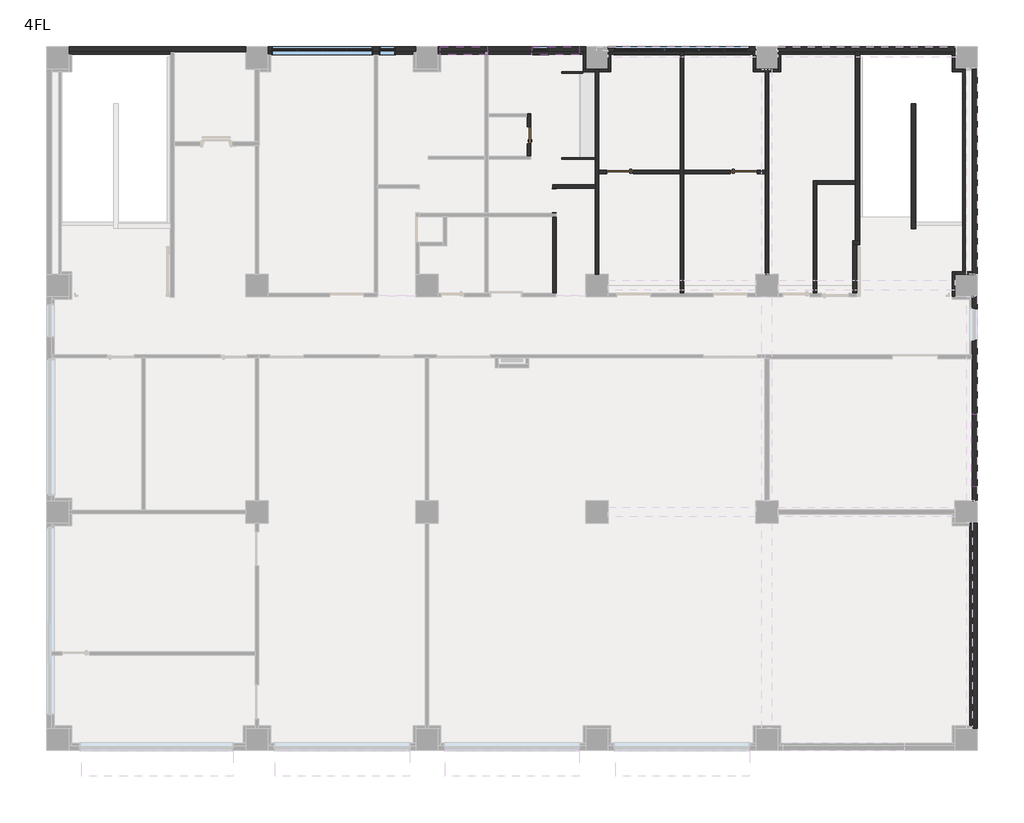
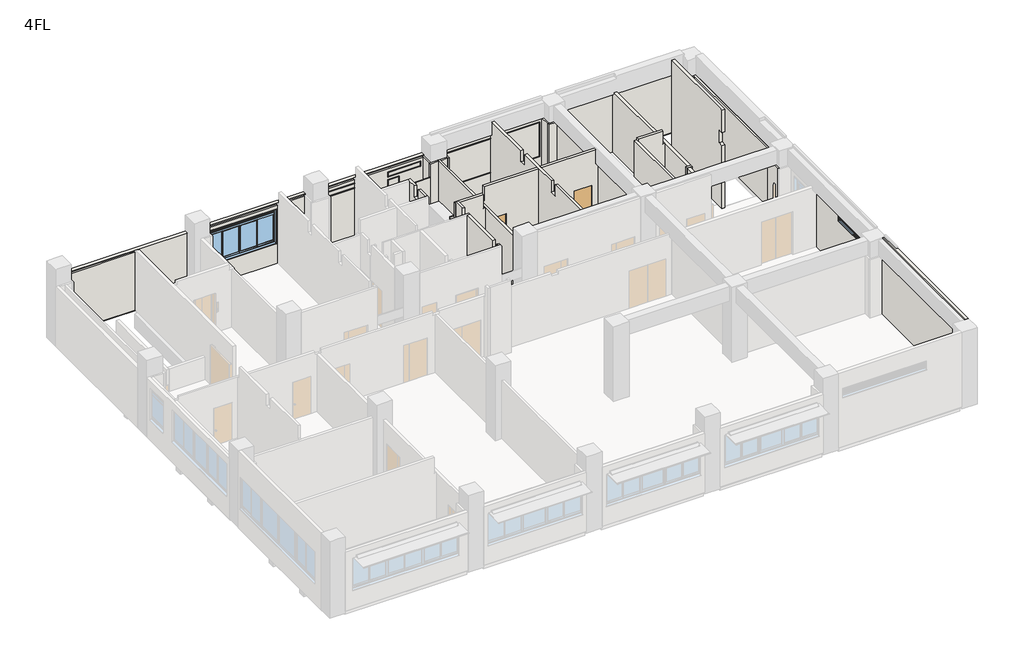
# One storey, part 3 of 5: 35 walls, 7 windows, 4 doors.
"""IFC4 building model written with IfcOpenShell, lengths in millimetres."""

from ifc_helpers import new_model, si_unit, frame, origin, place, context, project, spatial, polyline, outline, extrude, faceted_brep, transform, mapped, element, save
from components import door_0812e9ce, door_7e7a0efd, door_cb1f44da, door_14d6dc4f, ag_06_22dadb70, ag_07_7ad97628, aw4_4580bdda, aw5_68b6661f, aw7_750fac0c, aw9_1008a672

model = new_model("IFC4")

# Units and contexts
model_context = context("Model", 3, world=origin())
ifc_project = project(units=[si_unit("LENGTHUNIT", "METRE", prefix="MILLI")], contexts=[model_context])

# Site, building, storey
site = spatial("IfcSite", under=ifc_project)
building = spatial("IfcBuilding", under=site)
storey = spatial("IfcBuildingStorey", under=building, Name="4FL", Elevation=12300.0)

# Doors
placement = place(None, origin())
door_shape = door_0812e9ce(model_context)
element("IfcDoor", 1, ObjectType="営_片開き扉 : LD3 950*2000", at=placement, inside=storey, context=model_context, shape_type="MappedRepresentation", body=[
    mapped(door_shape, transform((19815.0, 20000.0, 12300.0), x_axis=(-1.0, 0.0, 0.0), y_axis=(0.0, -1.0, 0.0), z_axis=(0.0, 0.0, 1.0))),
])
door_2_shape = door_7e7a0efd(model_context)
element("IfcDoor", 2, ObjectType="営_片開き扉 : LD3 950*2000", at=placement, inside=storey, context=model_context, shape_type="MappedRepresentation", body=[
    mapped(door_2_shape, transform((24185.0, 20000.0, 12300.0), x_axis=(1.0, 0.0, 0.0), y_axis=(0.0, 1.0, 0.0), z_axis=(0.0, 0.0, 1.0))),
])
door_3_shape = door_cb1f44da(model_context)
element("IfcDoor", 3, ObjectType="営_片開き扉 : SD7 600*2000", at=placement, inside=storey, context=model_context, shape_type="MappedRepresentation", body=[
    mapped(door_3_shape, transform((16600.0, 21310.0, 12300.0), x_axis=(0.0, 1.0, 0.0), y_axis=(-1.0, 0.0, 0.0), z_axis=(0.0, 0.0, 1.0))),
])
door_4_shape = door_14d6dc4f(model_context)
element("IfcDoor", 4, ObjectType="営_三方枠 : S1_850*2000", at=placement, inside=storey, context=model_context, shape_type="MappedRepresentation", body=[
    mapped(door_4_shape, transform((17500.0, 18990.25, 12300.0), x_axis=(0.0, 1.0, 0.0), y_axis=(-1.0, 0.0, 0.0), z_axis=(0.0, 0.0, 1.0))),
])

# Walls
element("IfcWall", 5, ObjectType="(外壁)RC150+20", at=placement, inside=storey, context=model_context, shape_type="Brep", body=[
    faceted_brep([(7395.0, 24250.0, 12200.0), (12605.0, 24250.0, 12200.0), (12605.0, 24250.0, 15450.0), (7395.0, 24250.0, 15450.0), (7395.0, 24250.0, 15400.0), (12515.0, 24250.0, 15400.0), (12515.0, 24250.0, 12300.0), (7395.0, 24250.0, 12300.0), (12605.0, 24420.0, 12200.0), (7395.0, 24420.0, 12200.0), (7395.0, 24420.0, 15450.0), (12605.0, 24420.0, 15450.0), (11340.0, 24420.0, 13275.0), (11860.0, 24420.0, 13275.0), (11860.0, 24420.0, 15195.0), (11340.0, 24420.0, 15195.0), (7540.0, 24420.0, 13275.0), (11060.0, 24420.0, 13275.0), (11060.0, 24420.0, 15195.0), (7540.0, 24420.0, 15195.0), (11310.0, 24290.0, 13365.0), (11310.0, 24290.0, 15220.0), (11310.0, 24250.6075581, 15220.0), (11310.0, 24250.6075581, 13365.0), (11890.0, 24290.0, 15220.0), (11890.0, 24290.0, 13365.0), (11890.0, 24250.6075581, 13365.0), (11890.0, 24250.6075581, 15220.0), (11880.0, 24290.0, 13365.0), (11320.0, 24290.0, 13365.0), (11320.0, 24290.0, 15215.0), (11880.0, 24290.0, 15215.0), (11320.0, 24290.0, 13295.0), (11320.0, 24360.0, 13284.2307692), (11320.0, 24360.0, 15215.0), (11880.0, 24360.0, 15215.0), (11880.0, 24360.0, 13284.2307692), (11880.0, 24290.0, 13295.0), (11860.0, 24360.0, 13284.2307692), (11340.0, 24360.0, 13284.2307692), (11340.0, 24360.0, 15195.0), (11860.0, 24360.0, 15195.0), (11090.0, 24290.0, 15220.0), (11090.0, 24290.0, 13365.0), (11090.0, 24250.6075581, 13365.0), (11090.0, 24250.6075581, 15220.0), (7510.0, 24290.0, 13365.0), (7510.0, 24290.0, 15220.0), (7510.0, 24250.6075581, 15220.0), (7510.0, 24250.6075581, 13365.0), (11080.0, 24290.0, 13365.0), (7520.0, 24290.0, 13365.0), (7520.0, 24290.0, 15215.0), (11080.0, 24290.0, 15215.0), (11080.0, 24360.0, 15215.0), (11080.0, 24360.0, 13284.2307692), (11080.0, 24290.0, 13295.0), (7520.0, 24290.0, 13295.0), (7520.0, 24360.0, 13284.2307692), (7520.0, 24360.0, 15215.0), (11060.0, 24360.0, 13284.2307692), (7540.0, 24360.0, 13284.2307692), (7540.0, 24360.0, 15195.0), (11060.0, 24360.0, 15195.0), (7395.0, 24250.6075581, 12300.0), (7395.0, 24250.6075581, 15400.0), (12515.0, 24250.6075581, 12300.0), (12515.0, 24250.6075581, 15400.0)], [[[0, 1, 2, 3, 4, 5, 6, 7]], [[8, 9, 10, 11], [12, 13, 14, 15], [16, 17, 18, 19]], [[0, 9, 8, 1]], [[20, 21, 22, 23]], [[24, 25, 26, 27]], [[25, 28, 29, 20, 23, 26]], [[21, 20, 29, 30, 31, 28, 25, 24]], [[21, 24, 27, 22]], [[30, 29, 32, 33, 34]], [[28, 31, 35, 36, 37]], [[33, 32, 37, 36, 38, 13, 12, 39]], [[34, 33, 39, 40, 41, 38, 36, 35]], [[31, 30, 34, 35]], [[29, 28, 37, 32]], [[39, 12, 15, 40]], [[13, 38, 41, 14]], [[41, 40, 15, 14]], [[42, 43, 44, 45]], [[46, 47, 48, 49]], [[43, 50, 51, 46, 49, 44]], [[43, 42, 47, 46, 51, 52, 53, 50]], [[47, 42, 45, 48]], [[50, 53, 54, 55, 56]], [[52, 51, 57, 58, 59]], [[56, 55, 60, 17, 16, 61, 58, 57]], [[55, 54, 59, 58, 61, 62, 63, 60]], [[53, 52, 59, 54]], [[51, 50, 56, 57]], [[17, 60, 63, 18]], [[61, 16, 19, 62]], [[63, 62, 19, 18]], [[9, 0, 7, 64, 65, 4, 3, 10]], [[1, 8, 11, 2]], [[3, 2, 11, 10]], [[64, 66, 67, 65], [23, 22, 27, 26], [45, 44, 49, 48]], [[66, 64, 7, 6]], [[65, 67, 5, 4]], [[67, 66, 6, 5]]]),
    faceted_brep([(13395.0, 24250.0, 12200.0), (18605.0, 24250.0, 12200.0), (18605.0, 24250.0, 15450.0), (13395.0, 24250.0, 15450.0), (16710.0, 24250.0, 13365.0), (16710.0, 24250.0, 14820.0), (17290.0, 24250.0, 14820.0), (17290.0, 24250.0, 13365.0), (18380.0, 24250.0, 15235.0), (18380.0, 24250.0, 14965.0), (16700.0, 24250.0, 14965.0), (16700.0, 24250.0, 15235.0), (15140.0, 24250.0, 15235.0), (15140.0, 24250.0, 14965.0), (13460.0, 24250.0, 14965.0), (13460.0, 24250.0, 15235.0), (18605.0, 24420.0, 12200.0), (13395.0, 24420.0, 12200.0), (13395.0, 24420.0, 15450.0), (18605.0, 24420.0, 15450.0), (16740.0, 24420.0, 13275.0), (17260.0, 24420.0, 13275.0), (17260.0, 24420.0, 14795.0), (16740.0, 24420.0, 14795.0), (16730.0, 24420.0, 14875.0), (18350.0, 24420.0, 14875.0), (18350.0, 24420.0, 15210.0), (16730.0, 24420.0, 15210.0), (13490.0, 24420.0, 14875.0), (15110.0, 24420.0, 14875.0), (15110.0, 24420.0, 15210.0), (13490.0, 24420.0, 15210.0), (16710.0, 24290.0, 14820.0), (16710.0, 24290.0, 13365.0), (17290.0, 24290.0, 13365.0), (17290.0, 24290.0, 14820.0), (17280.0, 24290.0, 13365.0), (16720.0, 24290.0, 13365.0), (16720.0, 24290.0, 14815.0), (17280.0, 24290.0, 14815.0), (16720.0, 24290.0, 13295.0), (16720.0, 24360.0, 13284.2307692), (16720.0, 24360.0, 14815.0), (17280.0, 24360.0, 14815.0), (17280.0, 24360.0, 13284.2307692), (17280.0, 24290.0, 13295.0), (17260.0, 24360.0, 13284.2307692), (16740.0, 24360.0, 13284.2307692), (16740.0, 24360.0, 14795.0), (17260.0, 24360.0, 14795.0), (18380.0, 24290.0, 15235.0), (18380.0, 24290.0, 14965.0), (16700.0, 24290.0, 14965.0), (16700.0, 24290.0, 15235.0), (18370.0, 24290.0, 14965.0), (16710.0, 24290.0, 14965.0), (16710.0, 24290.0, 15230.0), (18370.0, 24290.0, 15230.0), (18370.0, 24360.0, 15230.0), (18370.0, 24360.0, 14884.2307692), (18370.0, 24290.0, 14895.0), (16710.0, 24290.0, 14895.0), (16710.0, 24360.0, 14884.2307692), (16710.0, 24360.0, 15230.0), (18350.0, 24360.0, 14884.2307692), (16730.0, 24360.0, 14884.2307692), (16730.0, 24360.0, 15210.0), (18350.0, 24360.0, 15210.0), (15140.0, 24290.0, 15235.0), (15140.0, 24290.0, 14965.0), (13460.0, 24290.0, 14965.0), (13460.0, 24290.0, 15235.0), (15130.0, 24290.0, 14965.0), (13470.0, 24290.0, 14965.0), (13470.0, 24290.0, 15230.0), (15130.0, 24290.0, 15230.0), (15130.0, 24360.0, 15230.0), (15130.0, 24360.0, 14884.2307692), (15130.0, 24290.0, 14895.0), (13470.0, 24290.0, 14895.0), (13470.0, 24360.0, 14884.2307692), (13470.0, 24360.0, 15230.0), (15110.0, 24360.0, 14884.2307692), (13490.0, 24360.0, 14884.2307692), (13490.0, 24360.0, 15210.0), (15110.0, 24360.0, 15210.0)], [[[0, 1, 2, 3], [4, 5, 6, 7], [8, 9, 10, 11], [12, 13, 14, 15]], [[16, 17, 18, 19], [20, 21, 22, 23], [24, 25, 26, 27], [28, 29, 30, 31]], [[0, 17, 16, 1]], [[32, 5, 4, 33]], [[34, 7, 6, 35]], [[33, 4, 7, 34, 36, 37]], [[32, 33, 37, 38, 39, 36, 34, 35]], [[5, 32, 35, 6]], [[38, 37, 40, 41, 42]], [[36, 39, 43, 44, 45]], [[41, 40, 45, 44, 46, 21, 20, 47]], [[42, 41, 47, 48, 49, 46, 44, 43]], [[39, 38, 42, 43]], [[37, 36, 45, 40]], [[47, 20, 23, 48]], [[21, 46, 49, 22]], [[49, 48, 23, 22]], [[50, 51, 9, 8]], [[52, 53, 11, 10]], [[51, 54, 55, 52, 10, 9]], [[51, 50, 53, 52, 55, 56, 57, 54]], [[53, 50, 8, 11]], [[54, 57, 58, 59, 60]], [[56, 55, 61, 62, 63]], [[60, 59, 64, 25, 24, 65, 62, 61]], [[59, 58, 63, 62, 65, 66, 67, 64]], [[57, 56, 63, 58]], [[55, 54, 60, 61]], [[25, 64, 67, 26]], [[65, 24, 27, 66]], [[67, 66, 27, 26]], [[68, 69, 13, 12]], [[70, 71, 15, 14]], [[13, 69, 72, 73, 70, 14]], [[69, 68, 71, 70, 73, 74, 75, 72]], [[68, 12, 15, 71]], [[72, 75, 76, 77, 78]], [[74, 73, 79, 80, 81]], [[78, 77, 82, 29, 28, 83, 80, 79]], [[77, 76, 81, 80, 83, 84, 85, 82]], [[75, 74, 81, 76]], [[73, 72, 78, 79]], [[29, 82, 85, 30]], [[83, 28, 31, 84]], [[85, 84, 31, 30]], [[17, 0, 3, 18]], [[1, 16, 19, 2]], [[3, 2, 19, 18]]]),
    faceted_brep([(19395.0, 24250.0, 12200.0), (24605.0, 24250.0, 12200.0), (24605.0, 24250.0, 15450.0), (19395.0, 24250.0, 15450.0), (24410.0, 24250.0, 15220.0), (24410.0, 24250.0, 13365.0), (19590.0, 24250.0, 13365.0), (19590.0, 24250.0, 15220.0), (24605.0, 24420.0, 12200.0), (19395.0, 24420.0, 12200.0), (19395.0, 24420.0, 15450.0), (24605.0, 24420.0, 15450.0), (19620.0, 24420.0, 13275.0), (24380.0, 24420.0, 13275.0), (24380.0, 24420.0, 15195.0), (19620.0, 24420.0, 15195.0), (24410.0, 24290.0, 15220.0), (24410.0, 24290.0, 13365.0), (19590.0, 24290.0, 13365.0), (19590.0, 24290.0, 15220.0), (24400.0, 24290.0, 13365.0), (19600.0, 24290.0, 13365.0), (19600.0, 24290.0, 15215.0), (24400.0, 24290.0, 15215.0), (24400.0, 24360.0, 15215.0), (24400.0, 24360.0, 13284.2307692), (24400.0, 24290.0, 13295.0), (19600.0, 24290.0, 13295.0), (19600.0, 24360.0, 13284.2307692), (19600.0, 24360.0, 15215.0), (24380.0, 24360.0, 13284.2307692), (19620.0, 24360.0, 13284.2307692), (19620.0, 24360.0, 15195.0), (24380.0, 24360.0, 15195.0)], [[[0, 1, 2, 3], [4, 5, 6, 7]], [[8, 9, 10, 11], [12, 13, 14, 15]], [[0, 9, 8, 1]], [[16, 17, 5, 4]], [[18, 19, 7, 6]], [[5, 17, 20, 21, 18, 6]], [[17, 16, 19, 18, 21, 22, 23, 20]], [[16, 4, 7, 19]], [[20, 23, 24, 25, 26]], [[22, 21, 27, 28, 29]], [[26, 25, 30, 13, 12, 31, 28, 27]], [[25, 24, 29, 28, 31, 32, 33, 30]], [[23, 22, 29, 24]], [[21, 20, 26, 27]], [[13, 30, 33, 14]], [[31, 12, 15, 32]], [[33, 32, 15, 14]], [[9, 0, 3, 10]], [[1, 8, 11, 2]], [[3, 2, 11, 10]]]),
    faceted_brep([(25395.0, 24250.0, 12200.0), (31630.0, 24250.0, 12200.0), (31630.0, 24250.0, 15450.0), (25395.0, 24250.0, 15450.0), (31630.0, 24420.0, 12200.0), (31580.0, 24420.0, 12200.0), (25420.0, 24420.0, 12200.0), (25395.0, 24420.0, 12200.0), (25395.0, 24420.0, 15450.0), (31630.0, 24420.0, 15450.0)], [[[0, 1, 2, 3]], [[4, 5, 6, 7, 8, 9]], [[0, 7, 6, 5, 4, 1]], [[7, 0, 3, 8]], [[1, 4, 9, 2]], [[3, 2, 9, 8]]]),
    faceted_brep([(370.0, 24250.0, 12200.0), (6605.0, 24250.0, 12200.0), (6605.0, 24250.0, 15450.0), (370.0, 24250.0, 15450.0), (6605.0, 24420.0, 12200.0), (370.0, 24420.0, 12200.0), (370.0, 24420.0, 15450.0), (6605.0, 24420.0, 15450.0)], [[[0, 1, 2, 3]], [[4, 5, 6, 7]], [[4, 1, 0, 5]], [[1, 4, 7, 2]], [[5, 0, 3, 6]], [[3, 2, 7, 6]]]),
])
element("IfcWall", 6, ObjectType="(外壁)RC150+20", at=placement, inside=storey, context=model_context, shape_type="Brep", body=[
    faceted_brep([(32250.0, 15605.0, 12200.0), (32250.0, 8395.0, 12200.0), (32250.0, 8395.0, 15400.0), (32250.0, 15605.0, 15400.0), (32250.0, 14027.5, 15020.0), (32250.0, 14027.5, 13365.0), (32250.0, 15207.5, 13365.0), (32250.0, 15207.5, 15020.0), (32250.0, 8890.0, 15385.0), (32250.0, 8890.0, 14865.0), (32250.0, 11470.0, 14865.0), (32250.0, 11470.0, 15385.0), (32420.0, 15605.0, 15400.0), (32420.0, 8395.0, 15400.0), (32420.0, 8395.0, 12200.0), (32420.0, 8420.0, 12200.0), (32420.0, 15580.0, 12200.0), (32420.0, 15605.0, 12200.0), (32420.0, 15177.5, 13275.0), (32420.0, 14057.5, 13275.0), (32420.0, 14057.5, 14995.0), (32420.0, 15177.5, 14995.0), (32420.0, 11440.0, 14775.0), (32420.0, 8920.0, 14775.0), (32420.0, 8920.0, 15360.0), (32420.0, 11440.0, 15360.0), (32290.0, 14027.5, 15020.0), (32290.0, 14027.5, 13365.0), (32290.0, 15207.5, 13365.0), (32290.0, 15207.5, 15020.0), (32290.0, 14037.5, 13365.0), (32290.0, 15197.5, 13365.0), (32290.0, 15197.5, 15015.0), (32290.0, 14037.5, 15015.0), (32360.0, 14037.5, 15015.0), (32360.0, 14037.5, 13284.2307692), (32290.0, 14037.5, 13295.0), (32290.0, 15197.5, 13295.0), (32360.0, 15197.5, 13284.2307692), (32360.0, 15197.5, 15015.0), (32360.0, 14057.5, 13284.2307692), (32360.0, 15177.5, 13284.2307692), (32360.0, 15177.5, 14995.0), (32360.0, 14057.5, 14995.0), (32290.0, 8890.0, 15385.0), (32290.0, 8890.0, 14865.0), (32290.0, 11470.0, 14865.0), (32290.0, 11470.0, 15385.0), (32290.0, 8900.0, 14865.0), (32290.0, 11460.0, 14865.0), (32290.0, 11460.0, 15380.0), (32290.0, 8900.0, 15380.0), (32360.0, 8900.0, 15380.0), (32360.0, 8900.0, 14784.2307692), (32290.0, 8900.0, 14795.0), (32290.0, 11460.0, 14795.0), (32360.0, 11460.0, 14784.2307692), (32360.0, 11460.0, 15380.0), (32360.0, 8920.0, 14784.2307692), (32360.0, 11440.0, 14784.2307692), (32360.0, 11440.0, 15360.0), (32360.0, 8920.0, 15360.0)], [[[0, 1, 2, 3], [4, 5, 6, 7], [8, 9, 10, 11]], [[12, 13, 14, 15, 16, 17], [18, 19, 20, 21], [22, 23, 24, 25]], [[14, 1, 0, 17, 16, 15]], [[26, 27, 5, 4]], [[28, 29, 7, 6]], [[5, 27, 30, 31, 28, 6]], [[27, 26, 29, 28, 31, 32, 33, 30]], [[26, 4, 7, 29]], [[30, 33, 34, 35, 36]], [[32, 31, 37, 38, 39]], [[36, 35, 40, 19, 18, 41, 38, 37]], [[35, 34, 39, 38, 41, 42, 43, 40]], [[33, 32, 39, 34]], [[31, 30, 36, 37]], [[19, 40, 43, 20]], [[41, 18, 21, 42]], [[43, 42, 21, 20]], [[1, 14, 13, 2]], [[17, 0, 3, 12]], [[3, 2, 13, 12]], [[44, 45, 9, 8]], [[46, 47, 11, 10]], [[9, 45, 48, 49, 46, 10]], [[45, 44, 47, 46, 49, 50, 51, 48]], [[44, 8, 11, 47]], [[48, 51, 52, 53, 54]], [[50, 49, 55, 56, 57]], [[54, 53, 58, 23, 22, 59, 56, 55]], [[53, 52, 57, 56, 59, 60, 61, 58]], [[51, 50, 57, 52]], [[49, 48, 54, 55]], [[23, 58, 61, 24]], [[59, 22, 25, 60]], [[61, 60, 25, 24]]]),
    faceted_brep([(32250.0, 23630.0, 12200.0), (32250.0, 16395.0, 12200.0), (32250.0, 16395.0, 15400.0), (32250.0, 23630.0, 15400.0), (32420.0, 16395.0, 12200.0), (32420.0, 16420.0, 12200.0), (32420.0, 23580.0, 12200.0), (32420.0, 23630.0, 12200.0), (32420.0, 23630.0, 15400.0), (32420.0, 16395.0, 15400.0)], [[[0, 1, 2, 3]], [[4, 5, 6, 7, 8, 9]], [[4, 1, 0, 7, 6, 5]], [[1, 4, 9, 2]], [[7, 0, 3, 8]], [[3, 2, 9, 8]]]),
    faceted_brep([(32250.0, 370.0, 12200.0), (32250.0, 370.0, 15400.0), (32250.0, 370.0, 16240.0), (32250.0, 370.0, 16300.0), (32250.0, 7605.0, 16300.0), (32250.0, 7605.0, 16240.0), (32250.0, 7605.0, 12200.0), (32420.0, 7605.0, 12200.0), (32420.0, 7605.0, 16300.0), (32420.0, 6580.0, 16300.0), (32420.0, 370.0, 16300.0), (32420.0, 370.0, 12200.0), (32420.0, 420.0, 12200.0), (32420.0, 7580.0, 12200.0)], [[[0, 1, 2, 3, 4, 5, 6]], [[7, 8, 9, 10, 11, 12, 13]], [[11, 0, 6, 7, 13, 12]], [[3, 10, 9, 8, 4]], [[3, 2, 1, 0, 11, 10]], [[6, 5, 4, 8, 7]]]),
])
element("IfcWall", 7, ObjectType="(内壁)W4", at=placement, inside=storey, context=model_context, shape_type="Brep", body=[
    faceted_brep([(18940.0, 23630.0, 12300.0), (18940.0, 23540.0, 12300.0), (18940.0, 19550.0, 12300.0), (18940.0, 19430.0, 12300.0), (18940.0, 16395.0, 12300.0), (18940.0, 16395.0, 15400.0), (18940.0, 19430.0, 15400.0), (18940.0, 19550.0, 15400.0), (18940.0, 23540.0, 15400.0), (18940.0, 23630.0, 15400.0), (19060.0, 16395.0, 12300.0), (19060.0, 19940.0, 12300.0), (19060.0, 20060.0, 12300.0), (19060.0, 23540.0, 12300.0), (19060.0, 23630.0, 12300.0), (19060.0, 23630.0, 15400.0), (19060.0, 23540.0, 15400.0), (19060.0, 20060.0, 15400.0), (19060.0, 19940.0, 15400.0), (19060.0, 16395.0, 15400.0)], [[[0, 1, 2, 3, 4, 5, 6, 7, 8, 9]], [[10, 11, 12, 13, 14, 15, 16, 17, 18, 19]], [[10, 4, 3, 2, 1, 0, 14, 13, 12, 11]], [[4, 10, 19, 5]], [[14, 0, 9, 15]], [[9, 8, 7, 6, 5, 19, 18, 17, 16, 15]]]),
])
element("IfcWall", 8, ObjectType="(内壁)W3", at=placement, inside=storey, context=model_context, shape_type="Brep", body=[
    faceted_brep([(26640.0, 19695.0, 12300.0), (26640.0, 15725.0, 12300.0), (26640.0, 15725.0, 16150.0), (26640.0, 15825.0, 16150.0), (26640.0, 15825.0, 15450.0), (26640.0, 16175.0, 15450.0), (26640.0, 16175.0, 16150.0), (26640.0, 19695.0, 16150.0), (26760.0, 15725.0, 12300.0), (26760.0, 19575.0, 12300.0), (26760.0, 19695.0, 12300.0), (26760.0, 19695.0, 16150.0), (26760.0, 16175.0, 16150.0), (26760.0, 16175.0, 15450.0), (26760.0, 15825.0, 15450.0), (26760.0, 15825.0, 16150.0), (26760.0, 15725.0, 16150.0)], [[[0, 1, 2, 3, 4, 5, 6, 7]], [[8, 9, 10, 11, 12, 13, 14, 15, 16]], [[1, 0, 10, 9, 8]], [[11, 7, 6, 12]], [[2, 16, 15, 3]], [[0, 7, 11, 10]], [[2, 1, 8, 16]], [[14, 4, 3, 15]], [[4, 14, 13, 5]], [[5, 13, 12, 6]]]),
])
element("IfcWall", 9, ObjectType="(内壁)W3", at=placement, inside=storey, context=model_context, shape_type="Brep", body=[
    faceted_brep([(26760.0, 19575.0, 12300.0), (28125.0, 19575.0, 12300.0), (28125.0, 19575.0, 15550.0), (28024.0, 19575.0, 15550.0), (28024.0, 19575.0, 16250.0), (26760.0, 19575.0, 16250.0), (28125.0, 19695.0, 12300.0), (26760.0, 19695.0, 12300.0), (26760.0, 19695.0, 16150.0), (26760.0, 19695.0, 16250.0), (28024.0, 19695.0, 16250.0), (28024.0, 19695.0, 15550.0), (28125.0, 19695.0, 15550.0)], [[[0, 1, 2, 3, 4, 5]], [[6, 7, 8, 9, 10, 11, 12]], [[1, 0, 7, 6]], [[9, 5, 4, 10]], [[0, 5, 9, 8, 7]], [[1, 6, 12, 2]], [[11, 3, 2, 12]], [[3, 11, 10, 4]]]),
])
element("IfcWall", 10, ObjectType="(内壁)150_RC", at=placement, inside=storey, context=model_context, shape_type="Brep", body=[
    faceted_brep([(28175.0, 15725.0, 12300.0), (28175.0, 17430.0, 12300.0), (28175.0, 17430.0, 15550.0), (28175.0, 16175.0, 15550.0), (28175.0, 16175.0, 15450.0), (28175.0, 15825.0, 15450.0), (28175.0, 15825.0, 15550.0), (28175.0, 15825.0, 16150.0), (28175.0, 15725.0, 16150.0), (28025.0, 17430.0, 12300.0), (28025.0, 15725.0, 12300.0), (28025.0, 15725.0, 16150.0), (28025.0, 15825.0, 16150.0), (28025.0, 15825.0, 15550.0), (28025.0, 15825.0, 15450.0), (28025.0, 16175.0, 15450.0), (28025.0, 16175.0, 15550.0), (28025.0, 17430.0, 15550.0)], [[[0, 1, 2, 3, 4, 5, 6, 7, 8]], [[9, 10, 11, 12, 13, 14, 15, 16, 17]], [[1, 0, 10, 9]], [[11, 8, 7, 12]], [[1, 9, 17, 2]], [[0, 8, 11, 10]], [[5, 14, 13, 12, 7, 6]], [[14, 5, 4, 15]], [[15, 4, 3, 16]], [[3, 2, 17, 16]]]),
])
element("IfcWall", 11, ObjectType="(内壁)150_RC", at=placement, inside=storey, context=model_context, shape_type="Brep", body=[
    faceted_brep([(28025.0, 17430.0, 12300.0), (28175.0, 17430.0, 12300.0), (28275.0, 17430.0, 12300.0), (28275.0, 17430.0, 15550.0), (28175.0, 17430.0, 15550.0), (28025.0, 17430.0, 15550.0), (28275.0, 17580.0, 12300.0), (28125.0, 17580.0, 12300.0), (28025.0, 17580.0, 12300.0), (28025.0, 17580.0, 15550.0), (28125.0, 17580.0, 15550.0), (28275.0, 17580.0, 15550.0)], [[[0, 1, 2, 3, 4, 5]], [[6, 7, 8, 9, 10, 11]], [[2, 1, 0, 8, 7, 6]], [[8, 0, 5, 9]], [[2, 6, 11, 3]], [[5, 4, 3, 11, 10, 9]]]),
])
element("IfcWall", 12, ObjectType="(内壁)150_RC", at=placement, inside=storey, context=model_context, shape_type="Brep", body=[
    faceted_brep([(28275.0, 17580.0, 12300.0), (28275.0, 24250.0, 12300.0), (28275.0, 24250.0, 15550.0), (28275.0, 17580.0, 15550.0), (28125.0, 24250.0, 12300.0), (28125.0, 19695.0, 12300.0), (28125.0, 19575.0, 12300.0), (28125.0, 17580.0, 12300.0), (28125.0, 17580.0, 15550.0), (28125.0, 19575.0, 15550.0), (28125.0, 19695.0, 15550.0), (28125.0, 24250.0, 15550.0)], [[[0, 1, 2, 3]], [[4, 5, 6, 7, 8, 9, 10, 11]], [[1, 0, 7, 6, 5, 4]], [[7, 0, 3, 8]], [[3, 2, 11, 10, 9, 8]], [[1, 4, 11, 2]]]),
])
element("IfcWall", 13, ObjectType="(内壁)W3", at=placement, inside=storey, context=model_context, shape_type="Brep", body=[
    faceted_brep([(25060.0, 16395.0, 12300.0), (25060.0, 23540.0, 12300.0), (25060.0, 23630.0, 12300.0), (25060.0, 23630.0, 15400.0), (25060.0, 23540.0, 15400.0), (25060.0, 16395.0, 15400.0), (24940.0, 23630.0, 12300.0), (24940.0, 23540.0, 12300.0), (24940.0, 20060.0, 12300.0), (24940.0, 19940.0, 12300.0), (24940.0, 16395.0, 12300.0), (24940.0, 16395.0, 15400.0), (24940.0, 19940.0, 15400.0), (24940.0, 20060.0, 15400.0), (24940.0, 23540.0, 15400.0), (24940.0, 23630.0, 15400.0)], [[[0, 1, 2, 3, 4, 5]], [[6, 7, 8, 9, 10, 11, 12, 13, 14, 15]], [[0, 10, 9, 8, 7, 6, 2, 1]], [[10, 0, 5, 11]], [[2, 6, 15, 3]], [[5, 4, 3, 15, 14, 13, 12, 11]]]),
])
element("IfcWall", 14, ObjectType="(内壁)W3", at=placement, inside=storey, context=model_context, shape_type="Brep", body=[
    faceted_brep([(21940.0, 24250.0, 12300.0), (21940.0, 20060.0, 12300.0), (21940.0, 19940.0, 12300.0), (21940.0, 15725.0, 12300.0), (21940.0, 15725.0, 16150.0), (21940.0, 15825.0, 16150.0), (21940.0, 15825.0, 15450.0), (21940.0, 16175.0, 15450.0), (21940.0, 16175.0, 16150.0), (21940.0, 18495.0, 16150.0), (21940.0, 18495.0, 15550.0), (21940.0, 18845.0, 15550.0), (21940.0, 18845.0, 16150.0), (21940.0, 19940.0, 16150.0), (21940.0, 20060.0, 16150.0), (21940.0, 21165.0, 16150.0), (21940.0, 21165.0, 15550.0), (21940.0, 21515.0, 15550.0), (21940.0, 21515.0, 16150.0), (21940.0, 24050.0, 16150.0), (21940.0, 24050.0, 15450.0), (21940.0, 24250.0, 15450.0), (22060.0, 15725.0, 12300.0), (22060.0, 19940.0, 12300.0), (22060.0, 20060.0, 12300.0), (22060.0, 24250.0, 12300.0), (22060.0, 24250.0, 15450.0), (22060.0, 24050.0, 15450.0), (22060.0, 24050.0, 16150.0), (22060.0, 21515.0, 16150.0), (22060.0, 21515.0, 15550.0), (22060.0, 21165.0, 15550.0), (22060.0, 21165.0, 16150.0), (22060.0, 20060.0, 16150.0), (22060.0, 19940.0, 16150.0), (22060.0, 18845.0, 16150.0), (22060.0, 18845.0, 15550.0), (22060.0, 18495.0, 15550.0), (22060.0, 18495.0, 16150.0), (22060.0, 16175.0, 16150.0), (22060.0, 16175.0, 15450.0), (22060.0, 15825.0, 15450.0), (22060.0, 15825.0, 16150.0), (22060.0, 15725.0, 16150.0)], [[[0, 1, 2, 3, 4, 5, 6, 7, 8, 9, 10, 11, 12, 13, 14, 15, 16, 17, 18, 19, 20, 21]], [[22, 23, 24, 25, 26, 27, 28, 29, 30, 31, 32, 33, 34, 35, 36, 37, 38, 39, 40, 41, 42, 43]], [[3, 2, 1, 0, 25, 24, 23, 22]], [[4, 43, 42, 5]], [[8, 39, 38, 9]], [[28, 19, 18, 29]], [[12, 35, 34, 33, 32, 15, 14, 13]], [[25, 0, 21, 26]], [[4, 3, 22, 43]], [[6, 5, 42, 41]], [[7, 6, 41, 40]], [[8, 7, 40, 39]], [[27, 20, 19, 28]], [[20, 27, 26, 21]], [[37, 10, 9, 38]], [[10, 37, 36, 11]], [[11, 36, 35, 12]], [[31, 16, 15, 32]], [[16, 31, 30, 17]], [[17, 30, 29, 18]]]),
])
element("IfcWall", 15, ObjectType="(内壁)W3", at=placement, inside=storey, context=model_context, shape_type="SweptSolid", body=[
    extrude(outline(polyline([(12300.0, 21940.0), (16150.0, 21940.0), (16150.0, 19175.0), (15400.0, 19175.0), (15400.0, 19060.0), (12300.0, 19060.0), (12300.0, 19340.0), (14300.0, 19340.0), (14300.0, 20290.0), (12300.0, 20290.0), (12300.0, 21940.0)])), frame((0.0, 19940.0, 0.0), z_axis=(0.0, 1.0, 0.0), x_axis=(0.0, 0.0, 1.0)), (0.0, 0.0, 1.0), 120.0),
    extrude(outline(polyline([(16150.0, 22060.0), (12300.0, 22060.0), (12300.0, 23710.0), (14300.0, 23710.0), (14300.0, 24660.0), (12300.0, 24660.0), (12300.0, 24940.0), (15400.0, 24940.0), (15400.0, 24825.0), (16150.0, 24825.0), (16150.0, 22060.0)])), frame((0.0, 19940.0, 0.0), z_axis=(0.0, 1.0, 0.0), x_axis=(0.0, 0.0, 1.0)), (0.0, 0.0, 1.0), 120.0),
])
element("IfcWall", 16, ObjectType="(内壁)W4", at=placement, inside=storey, context=model_context, shape_type="SweptSolid", body=[
    extrude(outline(polyline([(18430.0, 12300.0), (15725.0, 12300.0), (15725.0, 16150.0), (15825.0, 16150.0), (15825.0, 15450.0), (16175.0, 15450.0), (16175.0, 16150.0), (18430.0, 16150.0), (18430.0, 12300.0)])), frame((17440.0, 0.0, 0.0), z_axis=(1.0, 0.0, 0.0), x_axis=(0.0, 1.0, 0.0)), (0.0, 0.0, 1.0), 120.0),
])
element("IfcWall", 17, ObjectType="(内壁)W3", at=placement, inside=storey, context=model_context, shape_type="Brep", body=[
    faceted_brep([(16660.0, 20570.0, 16150.0), (16660.0, 20570.0, 12300.0), (16660.0, 21010.0, 12300.0), (16660.0, 21010.0, 14300.0), (16660.0, 21610.0, 14300.0), (16660.0, 21610.0, 12300.0), (16660.0, 22070.0, 12300.0), (16660.0, 22070.0, 16150.0), (16660.0, 21515.0, 16150.0), (16660.0, 21515.0, 15550.0), (16660.0, 21165.0, 15550.0), (16660.0, 21165.0, 16150.0), (16540.0, 20570.0, 12300.0), (16540.0, 20570.0, 16150.0), (16540.0, 21165.0, 16150.0), (16540.0, 21165.0, 15550.0), (16540.0, 21515.0, 15550.0), (16540.0, 21515.0, 16150.0), (16540.0, 21950.0, 16150.0), (16540.0, 22070.0, 16150.0), (16540.0, 22070.0, 12300.0), (16540.0, 21950.0, 12300.0), (16540.0, 21610.0, 12300.0), (16540.0, 21610.0, 14300.0), (16540.0, 21010.0, 14300.0), (16540.0, 21010.0, 12300.0)], [[[0, 1, 2, 3, 4, 5, 6, 7, 8, 9, 10, 11]], [[12, 13, 14, 15, 16, 17, 18, 19, 20, 21, 22, 23, 24, 25]], [[1, 12, 25, 2]], [[20, 6, 5, 22, 21]], [[13, 0, 11, 14]], [[7, 19, 18, 17, 8]], [[1, 0, 13, 12]], [[7, 6, 20, 19]], [[25, 24, 3, 2]], [[23, 22, 5, 4]], [[24, 23, 4, 3]], [[10, 15, 14, 11]], [[15, 10, 9, 16]], [[16, 9, 8, 17]]]),
])
element("IfcWall", 18, ObjectType="(内壁)W4", at=placement, inside=storey, context=model_context, shape_type="Brep", body=[
    faceted_brep([(17440.0, 19430.0, 12300.0), (17560.0, 19430.0, 12300.0), (18940.0, 19430.0, 12300.0), (18940.0, 19430.0, 15400.0), (18825.0, 19430.0, 15400.0), (18825.0, 19430.0, 16150.0), (17440.0, 19430.0, 16150.0), (18940.0, 19550.0, 12300.0), (17440.0, 19550.0, 12300.0), (17440.0, 19550.0, 16150.0), (18825.0, 19550.0, 16150.0), (18825.0, 19550.0, 15400.0), (18940.0, 19550.0, 15400.0)], [[[0, 1, 2, 3, 4, 5, 6]], [[7, 8, 9, 10, 11, 12]], [[2, 1, 0, 8, 7]], [[9, 6, 5, 10]], [[2, 7, 12, 3]], [[11, 4, 3, 12]], [[4, 11, 10, 5]], [[0, 6, 9, 8]]]),
])
element("IfcWall", 19, ObjectType="(内壁)120_部屋境界OFF", at=placement, inside=storey, context=model_context, shape_type="Brep", body=[
    faceted_brep([(17560.0, 18550.0, 12300.0), (17560.0, 18555.25, 12300.0), (17560.0, 18555.25, 14310.0), (17560.0, 19425.25, 14310.0), (17560.0, 19425.25, 12300.0), (17560.0, 19430.0, 12300.0), (17560.0, 19430.0, 16250.0), (17560.0, 18845.0, 16250.0), (17560.0, 18845.0, 15550.0), (17560.0, 18550.0, 15550.0), (17440.0, 18555.25, 12300.0), (17440.0, 18550.0, 12300.0), (17440.0, 18550.0, 15550.0), (17440.0, 18845.0, 15550.0), (17440.0, 18845.0, 16250.0), (17440.0, 19430.0, 16250.0), (17440.0, 19430.0, 16150.0), (17440.0, 19430.0, 12300.0), (17440.0, 19425.25, 12300.0), (17440.0, 19425.25, 14310.0), (17440.0, 18555.25, 14310.0)], [[[0, 1, 2, 3, 4, 5, 6, 7, 8, 9]], [[10, 11, 12, 13, 14, 15, 16, 17, 18, 19, 20]], [[11, 10, 1, 0]], [[5, 4, 18, 17]], [[6, 15, 14, 7]], [[11, 0, 9, 12]], [[6, 5, 17, 16, 15]], [[20, 2, 1, 10]], [[2, 20, 19, 3]], [[3, 19, 18, 4]], [[8, 13, 12, 9]], [[13, 8, 7, 14]]]),
])
element("IfcWall", 20, ObjectType="(内壁)ブース壁", at=placement, inside=storey, context=model_context, shape_type="SweptSolid", body=[
    extrude(outline(polyline([(17760.0, 20500.0), (18940.0, 20500.0), (18940.0, 20450.0), (17760.0, 20450.0), (17760.0, 20500.0)])), frame((0.0, 0.0, 12300.0), z_axis=(0.0, 0.0, 1.0), x_axis=(1.0, 0.0, 0.0)), (0.0, 0.0, 1.0), 2400.0),
])
element("IfcWall", 21, ObjectType="(内壁)ブース壁", at=placement, inside=storey, context=model_context, shape_type="SweptSolid", body=[
    extrude(outline(polyline([(17750.0, 23540.0), (18490.0, 23540.0), (18490.0, 23490.0), (17750.0, 23490.0), (17750.0, 23540.0)])), frame((0.0, 0.0, 12300.0), z_axis=(0.0, 0.0, 1.0), x_axis=(1.0, 0.0, 0.0)), (0.0, 0.0, 1.0), 2400.0),
])
element("IfcWall", 22, ObjectType="(内壁)150_RC", at=placement, inside=storey, context=model_context, shape_type="Brep", body=[
    faceted_brep([(30105.0, 22410.0, 12300.0), (30105.0, 18000.0, 12300.0), (30105.0, 18000.0, 15700.0), (30105.0, 18225.0, 15700.0), (30105.0, 18225.0, 16390.0), (30105.0, 18000.0, 16390.0), (30105.0, 18000.0, 16400.0), (30105.0, 18000.0, 17600.0), (30105.0, 18150.0, 17600.0), (30105.0, 22410.0, 17600.0), (30255.0, 18000.0, 12300.0), (30255.0, 22410.0, 12300.0), (30255.0, 22410.0, 17600.0), (30255.0, 18000.0, 17600.0), (30255.0, 18000.0, 16390.0), (30255.0, 18225.0, 16390.0), (30255.0, 18225.0, 15700.0), (30255.0, 18000.0, 15700.0)], [[[0, 1, 2, 3, 4, 5, 6, 7, 8, 9]], [[10, 11, 12, 13, 14, 15, 16, 17]], [[1, 0, 11, 10]], [[9, 8, 7, 13, 12]], [[0, 9, 12, 11]], [[1, 10, 17, 2]], [[13, 7, 6, 5, 14]], [[16, 3, 2, 17]], [[3, 16, 15, 4]], [[4, 15, 14, 5]]]),
])
element("IfcWall", 23, ObjectType="(内壁)W5", at=placement, inside=storey, context=model_context, shape_type="Brep", body=[
    faceted_brep([(31630.0, 15605.0, 12300.0), (31630.0, 16395.0, 12300.0), (31630.0, 16485.0, 12300.0), (31630.0, 16485.0, 15400.0), (31630.0, 16395.0, 15400.0), (31630.0, 15605.0, 15400.0), (31540.0, 15605.0, 12300.0), (31540.0, 15605.0, 15400.0), (31540.0, 16485.0, 15400.0), (31540.0, 16485.0, 12300.0)], [[[0, 1, 2, 3, 4, 5]], [[6, 7, 8, 9]], [[2, 1, 0, 6, 9]], [[5, 4, 3, 8, 7]], [[0, 5, 7, 6]], [[3, 2, 9, 8]]]),
])
element("IfcWall", 24, ObjectType="(内壁)W5", at=placement, inside=storey, context=model_context, shape_type="Brep", body=[
    faceted_brep([(31630.0, 16395.0, 12300.0), (32250.0, 16395.0, 12300.0), (32250.0, 16395.0, 15400.0), (31630.0, 16395.0, 15400.0), (31630.0, 16485.0, 12300.0), (31630.0, 16485.0, 15400.0), (31919.7329181, 16485.0, 15400.0), (32009.7329181, 16485.0, 15400.0), (32250.0, 16485.0, 15400.0), (32250.0, 16485.0, 12300.0), (32009.7329181, 16485.0, 12300.0), (31919.7329181, 16485.0, 12300.0)], [[[0, 1, 2, 3]], [[4, 5, 6, 7, 8, 9, 10, 11]], [[1, 0, 4, 11, 10, 9]], [[3, 2, 8, 7, 6, 5]], [[0, 3, 5, 4]], [[2, 1, 9, 8]]]),
])
element("IfcWall", 25, ObjectType="(内壁)W5", at=placement, inside=storey, context=model_context, shape_type="Brep", body=[
    faceted_brep([(32009.7329181, 16485.0, 12300.0), (32009.7329181, 23630.0, 12300.0), (32009.7329181, 23630.0, 15400.0), (32009.7329181, 16485.0, 15400.0), (31919.7329181, 16485.0, 12300.0), (31919.7329181, 16485.0, 15400.0), (31919.7329181, 23540.0, 15400.0), (31919.7329181, 23630.0, 15400.0), (31919.7329181, 23630.0, 12300.0), (31919.7329181, 23540.0, 12300.0)], [[[0, 1, 2, 3]], [[4, 5, 6, 7, 8, 9]], [[1, 0, 4, 9, 8]], [[3, 2, 7, 6, 5]], [[0, 3, 5, 4]], [[2, 1, 8, 7]]]),
])
element("IfcWall", 26, ObjectType="(内壁)W5", at=placement, inside=storey, context=model_context, shape_type="Brep", body=[
    faceted_brep([(31919.7329181, 23630.0, 12300.0), (31630.0, 23630.0, 12300.0), (31540.0, 23630.0, 12300.0), (31540.0, 23630.0, 15400.0), (31630.0, 23630.0, 15400.0), (31919.7329181, 23630.0, 15400.0), (31919.7329181, 23540.0, 12300.0), (31919.7329181, 23540.0, 15400.0), (31540.0, 23540.0, 15400.0), (31540.0, 23540.0, 12300.0)], [[[0, 1, 2, 3, 4, 5]], [[6, 7, 8, 9]], [[2, 1, 0, 6, 9]], [[5, 4, 3, 8, 7]], [[0, 5, 7, 6]], [[3, 2, 9, 8]]]),
])
element("IfcWall", 27, ObjectType="(内壁)W5", at=placement, inside=storey, context=model_context, shape_type="Brep", body=[
    faceted_brep([(31630.0, 23630.0, 12300.0), (31630.0, 24250.0, 12300.0), (31630.0, 24250.0, 15400.0), (31630.0, 23630.0, 15400.0), (31540.0, 23630.0, 12300.0), (31540.0, 23630.0, 15400.0), (31540.0, 24250.0, 15400.0), (31540.0, 24250.0, 12300.0), (31540.0, 24160.0, 12300.0)], [[[0, 1, 2, 3]], [[4, 5, 6, 7, 8]], [[1, 0, 4, 8, 7]], [[3, 2, 6, 5]], [[0, 3, 5, 4]], [[2, 1, 7, 6]]]),
])
element("IfcWall", 28, ObjectType="(内壁)W5", at=placement, inside=storey, context=model_context, shape_type="Brep", body=[
    faceted_brep([(31540.0, 24250.0, 12300.0), (25395.0, 24250.0, 12300.0), (25395.0, 24250.0, 15450.0), (31540.0, 24250.0, 15450.0), (31540.0, 24250.0, 15400.0), (31540.0, 24160.0, 12300.0), (31540.0, 24160.0, 15450.0), (25395.0, 24160.0, 15450.0), (25395.0, 24160.0, 15400.0), (25395.0, 24160.0, 12300.0), (25485.0, 24160.0, 12300.0)], [[[0, 1, 2, 3, 4]], [[5, 6, 7, 8, 9, 10]], [[1, 0, 5, 10, 9]], [[3, 2, 7, 6]], [[0, 4, 3, 6, 5]], [[2, 1, 9, 8, 7]]]),
])
element("IfcWall", 29, ObjectType="(内壁)W5", at=placement, inside=storey, context=model_context, shape_type="Brep", body=[
    faceted_brep([(25395.0, 24160.0, 12300.0), (25395.0, 23630.0, 12300.0), (25395.0, 23540.0, 12300.0), (25395.0, 23540.0, 15400.0), (25395.0, 23630.0, 15400.0), (25395.0, 24160.0, 15400.0), (25485.0, 24160.0, 12300.0), (25485.0, 24160.0, 15400.0), (25485.0, 23540.0, 15400.0), (25485.0, 23540.0, 12300.0)], [[[0, 1, 2, 3, 4, 5]], [[6, 7, 8, 9]], [[2, 1, 0, 6, 9]], [[5, 4, 3, 8, 7]], [[0, 5, 7, 6]], [[3, 2, 9, 8]]]),
])
element("IfcWall", 30, ObjectType="(内壁)W5", at=placement, inside=storey, context=model_context, shape_type="Brep", body=[
    faceted_brep([(25395.0, 23630.0, 15400.0), (25395.0, 23630.0, 12300.0), (25060.0, 23630.0, 12300.0), (25060.0, 23630.0, 15400.0), (25395.0, 23540.0, 12300.0), (25395.0, 23540.0, 15400.0), (25060.0, 23540.0, 15400.0), (25060.0, 23540.0, 12300.0)], [[[0, 1, 2, 3]], [[4, 5, 6, 7]], [[1, 4, 7, 2]], [[5, 0, 3, 6]], [[1, 0, 5, 4]], [[3, 2, 7, 6]]]),
    faceted_brep([(24515.0, 23630.0, 12300.0), (24515.0, 23630.0, 15400.0), (24605.0, 23630.0, 15400.0), (24940.0, 23630.0, 15400.0), (24940.0, 23630.0, 12300.0), (24605.0, 23630.0, 12300.0), (24515.0, 23540.0, 15400.0), (24515.0, 23540.0, 12300.0), (24940.0, 23540.0, 12300.0), (24940.0, 23540.0, 15400.0)], [[[0, 1, 2, 3, 4, 5]], [[6, 7, 8, 9]], [[7, 0, 5, 4, 8]], [[1, 6, 9, 3, 2]], [[1, 0, 7, 6]], [[4, 3, 9, 8]]]),
])
element("IfcWall", 31, ObjectType="(内壁)W5", at=placement, inside=storey, context=model_context, shape_type="Brep", body=[
    faceted_brep([(24605.0, 23630.0, 12300.0), (24605.0, 24250.0, 12300.0), (24605.0, 24250.0, 15400.0), (24605.0, 23630.0, 15400.0), (24515.0, 23630.0, 12300.0), (24515.0, 23630.0, 15400.0), (24515.0, 24160.0, 15400.0), (24515.0, 24250.0, 15400.0), (24515.0, 24250.0, 12300.0), (24515.0, 24160.0, 12300.0)], [[[0, 1, 2, 3]], [[4, 5, 6, 7, 8, 9]], [[1, 0, 4, 9, 8]], [[3, 2, 7, 6, 5]], [[0, 3, 5, 4]], [[2, 1, 8, 7]]]),
])
element("IfcWall", 32, ObjectType="(内壁)W5", at=placement, inside=storey, context=model_context, shape_type="Brep", body=[
    faceted_brep([(24515.0, 24250.0, 12300.0), (19395.0, 24250.0, 12300.0), (19395.0, 24250.0, 15400.0), (24515.0, 24250.0, 15400.0), (19395.0, 24160.0, 12300.0), (19485.0, 24160.0, 12300.0), (24515.0, 24160.0, 12300.0), (24515.0, 24160.0, 15400.0), (19485.0, 24160.0, 15400.0), (19395.0, 24160.0, 15400.0)], [[[0, 1, 2, 3]], [[4, 5, 6, 7, 8, 9]], [[1, 0, 6, 5, 4]], [[3, 2, 9, 8, 7]], [[0, 3, 7, 6]], [[2, 1, 4, 9]]]),
])
element("IfcWall", 33, ObjectType="(内壁)W5", at=placement, inside=storey, context=model_context, shape_type="Brep", body=[
    faceted_brep([(19395.0, 24160.0, 12300.0), (19395.0, 23630.0, 12300.0), (19395.0, 23540.0, 12300.0), (19395.0, 23540.0, 15400.0), (19395.0, 23630.0, 15400.0), (19395.0, 24160.0, 15400.0), (19485.0, 24160.0, 12300.0), (19485.0, 24160.0, 15400.0), (19485.0, 23540.0, 15400.0), (19485.0, 23540.0, 12300.0)], [[[0, 1, 2, 3, 4, 5]], [[6, 7, 8, 9]], [[2, 1, 0, 6, 9]], [[5, 4, 3, 8, 7]], [[0, 5, 7, 6]], [[3, 2, 9, 8]]]),
])
element("IfcWall", 34, ObjectType="(内壁)W5", at=placement, inside=storey, context=model_context, shape_type="Brep", body=[
    faceted_brep([(19395.0, 23630.0, 15400.0), (19395.0, 23630.0, 12300.0), (19060.0, 23630.0, 12300.0), (19060.0, 23630.0, 15400.0), (19395.0, 23540.0, 12300.0), (19395.0, 23540.0, 15400.0), (19060.0, 23540.0, 15400.0), (19060.0, 23540.0, 12300.0)], [[[0, 1, 2, 3]], [[4, 5, 6, 7]], [[1, 4, 7, 2]], [[5, 0, 3, 6]], [[1, 0, 5, 4]], [[3, 2, 7, 6]]]),
    faceted_brep([(18515.0, 23630.0, 12300.0), (18515.0, 23630.0, 15400.0), (18605.0, 23630.0, 15400.0), (18940.0, 23630.0, 15400.0), (18940.0, 23630.0, 12300.0), (18605.0, 23630.0, 12300.0), (18515.0, 23540.0, 15400.0), (18515.0, 23540.0, 12300.0), (18940.0, 23540.0, 12300.0), (18940.0, 23540.0, 15400.0)], [[[0, 1, 2, 3, 4, 5]], [[6, 7, 8, 9]], [[7, 0, 5, 4, 8]], [[1, 6, 9, 3, 2]], [[1, 0, 7, 6]], [[4, 3, 9, 8]]]),
])
element("IfcWall", 35, ObjectType="(内壁)W5", at=placement, inside=storey, context=model_context, shape_type="Brep", body=[
    faceted_brep([(18605.0, 23630.0, 12300.0), (18605.0, 24250.0, 12300.0), (18605.0, 24250.0, 15400.0), (18605.0, 23630.0, 15400.0), (18515.0, 23630.0, 12300.0), (18515.0, 23630.0, 15400.0), (18515.0, 24160.0, 15400.0), (18515.0, 24250.0, 15400.0), (18515.0, 24250.0, 12300.0), (18515.0, 24160.0, 12300.0)], [[[0, 1, 2, 3]], [[4, 5, 6, 7, 8, 9]], [[1, 0, 4, 9, 8]], [[3, 2, 7, 6, 5]], [[0, 3, 5, 4]], [[2, 1, 8, 7]]]),
])
element("IfcWall", 36, ObjectType="(内壁)W5", at=placement, inside=storey, context=model_context, shape_type="Brep", body=[
    faceted_brep([(18515.0, 24250.0, 15400.0), (18515.0, 24250.0, 12300.0), (15160.0, 24250.0, 12300.0), (15160.0, 24250.0, 15400.0), (18515.0, 24160.0, 12300.0), (18515.0, 24160.0, 15400.0), (15160.0, 24160.0, 15400.0), (15160.0, 24160.0, 12300.0)], [[[0, 1, 2, 3]], [[4, 5, 6, 7]], [[1, 4, 7, 2]], [[5, 0, 3, 6]], [[1, 0, 5, 4]], [[3, 2, 7, 6]]]),
    faceted_brep([(13395.0, 24250.0, 12300.0), (13395.0, 24250.0, 15400.0), (15040.0, 24250.0, 15400.0), (15040.0, 24250.0, 12300.0), (13395.0, 24160.0, 15400.0), (13395.0, 24160.0, 12300.0), (13485.0, 24160.0, 12300.0), (15040.0, 24160.0, 12300.0), (15040.0, 24160.0, 15400.0), (13485.0, 24160.0, 15400.0)], [[[0, 1, 2, 3]], [[4, 5, 6, 7, 8, 9]], [[5, 0, 3, 7, 6]], [[1, 4, 9, 8, 2]], [[1, 0, 5, 4]], [[3, 2, 8, 7]]]),
])
element("IfcWall", 37, ObjectType="(内壁)W5", at=placement, inside=storey, context=model_context, shape_type="Brep", body=[
    faceted_brep([(12515.0, 24250.6075581, 12300.0), (7395.0, 24250.6075581, 12300.0), (7395.0, 24250.6075581, 15400.0), (12515.0, 24250.6075581, 15400.0), (11310.0, 24250.6075581, 15220.0), (11310.0, 24250.6075581, 13365.0), (11890.0, 24250.6075581, 13365.0), (11890.0, 24250.6075581, 15220.0), (11090.0, 24250.6075581, 13365.0), (11090.0, 24250.6075581, 15220.0), (7510.0, 24250.6075581, 15220.0), (7510.0, 24250.6075581, 13365.0), (7395.0, 24160.6075581, 12300.0), (7485.0, 24160.6075581, 12300.0), (11140.0, 24160.6075581, 12300.0), (11260.0, 24160.6075581, 12300.0), (12515.0, 24160.6075581, 12300.0), (12515.0, 24160.6075581, 15400.0), (11260.0, 24160.6075581, 15400.0), (11140.0, 24160.6075581, 15400.0), (7485.0, 24160.6075581, 15400.0), (7395.0, 24160.6075581, 15400.0), (11310.0, 24160.6075581, 13365.0), (11310.0, 24160.6075581, 15220.0), (11890.0, 24160.6075581, 15220.0), (11890.0, 24160.6075581, 13365.0), (11090.0, 24160.6075581, 15220.0), (11090.0, 24160.6075581, 13365.0), (7510.0, 24160.6075581, 13365.0), (7510.0, 24160.6075581, 15220.0), (12515.0, 24250.0, 12300.0), (12515.0, 24250.0, 15400.0)], [[[0, 1, 2, 3], [4, 5, 6, 7], [8, 9, 10, 11]], [[12, 13, 14, 15, 16, 17, 18, 19, 20, 21], [22, 23, 24, 25], [26, 27, 28, 29]], [[1, 0, 30, 16, 15, 14, 13, 12]], [[3, 2, 21, 20, 19, 18, 17, 31]], [[2, 1, 12, 21]], [[0, 3, 31, 17, 16, 30]], [[22, 5, 4, 23]], [[24, 7, 6, 25]], [[5, 22, 25, 6]], [[23, 4, 7, 24]], [[26, 9, 8, 27]], [[28, 11, 10, 29]], [[27, 8, 11, 28]], [[9, 26, 29, 10]]]),
])
element("IfcWall", 38, ObjectType="(内壁)W5", at=placement, inside=storey, context=model_context, shape_type="Brep", body=[
    faceted_brep([(3925.0, 24250.0, 12300.0), (370.0, 24250.0, 12300.0), (370.0, 24250.0, 15400.0), (3925.0, 24250.0, 15400.0), (3925.0, 24160.0, 12300.0), (3925.0, 24160.0, 15400.0), (460.0, 24160.0, 15400.0), (370.0, 24160.0, 15400.0), (370.0, 24160.0, 12300.0), (460.0, 24160.0, 12300.0)], [[[0, 1, 2, 3]], [[4, 5, 6, 7, 8, 9]], [[1, 0, 4, 9, 8]], [[3, 2, 7, 6, 5]], [[2, 1, 8, 7]], [[0, 3, 5, 4]]]),
])
element("IfcWall", 39, ObjectType="(内壁)W5", at=placement, inside=storey, context=model_context, shape_type="Brep", body=[
    faceted_brep([(32250.0, 460.0, 12200.0), (32250.0, 7605.0, 12200.0), (32250.0, 7605.0, 15400.0), (32250.0, 460.0, 15400.0), (32160.0, 460.0, 12200.0), (32160.0, 460.0, 15400.0), (32160.0, 7515.0, 15400.0), (32160.0, 7605.0, 15400.0), (32160.0, 7605.0, 12200.0), (32160.0, 7515.0, 12200.0)], [[[0, 1, 2, 3]], [[4, 5, 6, 7, 8, 9]], [[1, 0, 4, 9, 8]], [[3, 2, 7, 6, 5]], [[0, 3, 5, 4]], [[2, 1, 8, 7]]]),
])

# Windows
ag_06_shape = ag_06_22dadb70(model_context)
element("IfcWindow", 40, ObjectType="営_単窓_ガラリ : AG-06", at=placement, inside=storey, context=model_context, shape_type="MappedRepresentation", body=[
    mapped(ag_06_shape, transform((32335.0, 10180.0, 13700.0), x_axis=(0.0, -1.0, 0.0), y_axis=(1.0, 0.0, 0.0), z_axis=(0.0, 0.0, 1.0))),
])
ag_07_shape = ag_07_7ad97628(model_context)
element("IfcWindow", 41, ObjectType="営_単窓_ガラリ : AG-07", at=placement, inside=storey, context=model_context, shape_type="MappedRepresentation", body=[
    mapped(ag_07_shape, transform((17540.0, 24335.0, 13800.0), x_axis=(1.0, 0.0, 0.0), y_axis=(0.0, 1.0, 0.0), z_axis=(0.0, 0.0, 1.0))),
])
element("IfcWindow", 42, ObjectType="営_単窓_ガラリ : AG-07", at=placement, inside=storey, context=model_context, shape_type="MappedRepresentation", body=[
    mapped(ag_07_shape, transform((14300.0, 24335.0, 13800.0), x_axis=(1.0, 0.0, 0.0), y_axis=(0.0, 1.0, 0.0), z_axis=(0.0, 0.0, 1.0))),
])
aw4_shape = aw4_4580bdda(model_context)
element("IfcWindow", 43, ObjectType="営_連段窓_引違い+FIX/ガラリ : AW4", at=placement, inside=storey, context=model_context, shape_type="MappedRepresentation", body=[
    mapped(aw4_shape, transform((22000.0, 24335.0, 12300.0), x_axis=(1.0, 0.0, 0.0), y_axis=(0.0, 1.0, 0.0), z_axis=(0.0, 0.0, 1.0))),
])
aw5_shape = aw5_68b6661f(model_context)
element("IfcWindow", 44, ObjectType="営_連段窓_引違い/ガラリ : AW5", at=placement, inside=storey, context=model_context, shape_type="MappedRepresentation", body=[
    mapped(aw5_shape, transform((9300.0, 24335.0, 12300.0), x_axis=(1.0, 0.0, 0.0), y_axis=(0.0, 1.0, 0.0), z_axis=(0.0, 0.0, 1.0))),
])
aw7_shape = aw7_750fac0c(model_context)
element("IfcWindow", 45, ObjectType="営_単窓_縦辷出し : AW7", at=placement, inside=storey, context=model_context, shape_type="MappedRepresentation", body=[
    mapped(aw7_shape, transform((17000.0, 24335.0, 12350.0), x_axis=(-1.0, 0.0, 0.0), y_axis=(0.0, -1.0, 0.0), z_axis=(0.0, 0.0, 1.0))),
])
aw9_shape = aw9_1008a672(model_context)
element("IfcWindow", 46, ObjectType="営_段窓_縦辷出し/ガラリ : AW9", at=placement, inside=storey, context=model_context, shape_type="MappedRepresentation", body=[
    mapped(aw9_shape, transform((11600.0, 24335.0, 12300.0), x_axis=(-1.0, 0.0, 0.0), y_axis=(0.0, -1.0, 0.0), z_axis=(0.0, 0.0, 1.0))),
])

save(model, "model.ifc")
